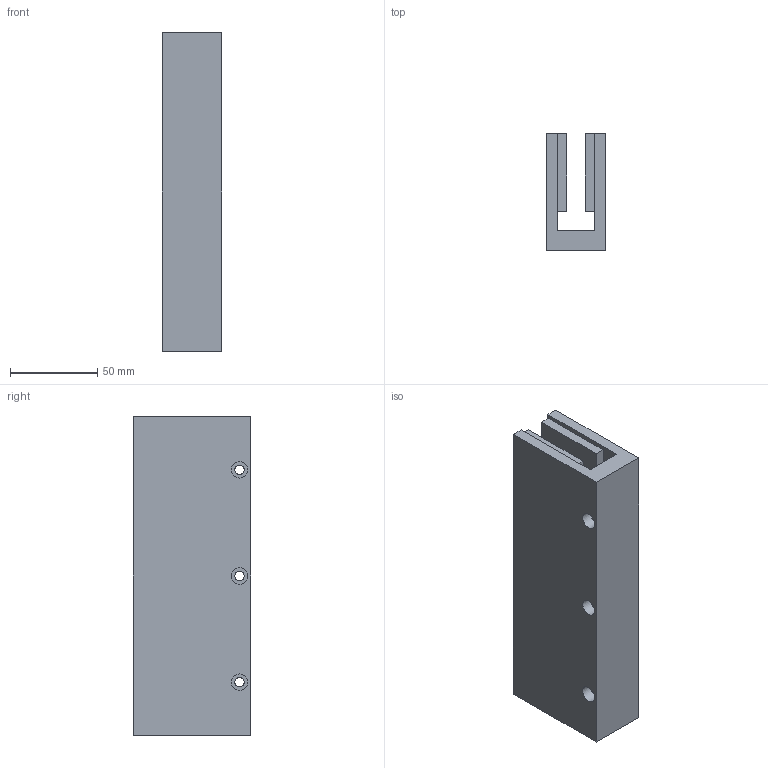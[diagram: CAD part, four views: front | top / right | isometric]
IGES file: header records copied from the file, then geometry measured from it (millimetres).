
Global section: file name: No Iges File Name specified; native system: Autodesk Inventor 2012; preprocessor: AutoDesk Inventor Iges Exporter R2012; author: je17857; date: 20120511.155621; units: inch
Bounding box: 34.29 x 67.31 x 182.63 mm (x, y, z)
Volume: 271654.8 mm3; surface area: 71066.1 mm2
Topology: 1 solids, 1 shells, 85 faces, 195 edges, 130 vertices
Faces by surface type: plane 76, revolution 9
